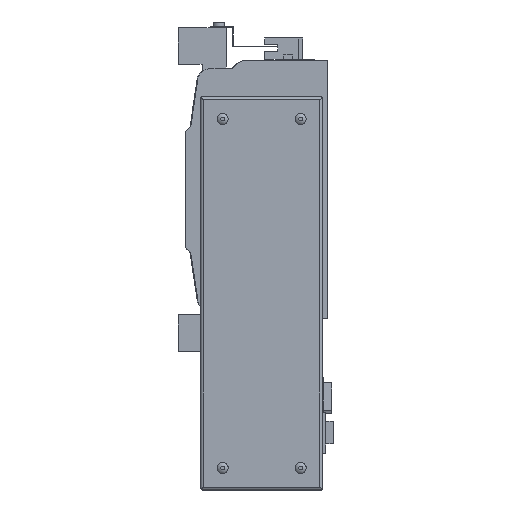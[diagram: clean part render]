
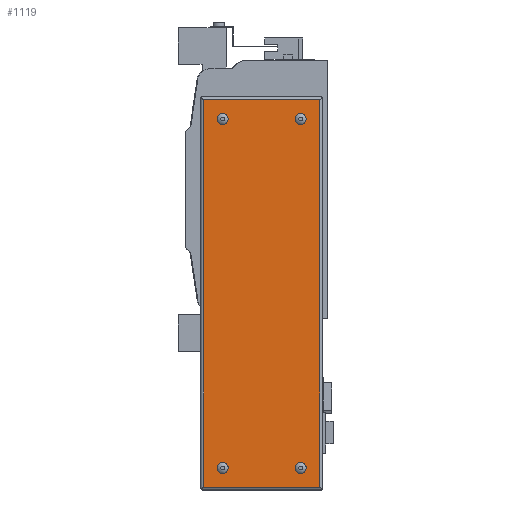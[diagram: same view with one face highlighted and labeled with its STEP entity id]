
A CAD part, left-side view. The second image highlights one B-rep face of the part: STEP entity #1119.
In plain terms, the highlighted planar face has unit normal (-1, 0, 0).
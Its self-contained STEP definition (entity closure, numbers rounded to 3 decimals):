
#1119 = ADVANCED_FACE( '', ( #2554, #2555, #2556, #2557, #2558 ), #2559, .F. );
#2554 = FACE_BOUND( '', #4397, .T. );
#2555 = FACE_BOUND( '', #4398, .T. );
#2556 = FACE_BOUND( '', #4399, .T. );
#2557 = FACE_BOUND( '', #4400, .T. );
#2558 = FACE_OUTER_BOUND( '', #4401, .T. );
#2559 = PLANE( '', #4402 );
#4397 = EDGE_LOOP( '', ( #7292 ) );
#4398 = EDGE_LOOP( '', ( #7293 ) );
#4399 = EDGE_LOOP( '', ( #7294 ) );
#4400 = EDGE_LOOP( '', ( #7295 ) );
#4401 = EDGE_LOOP( '', ( #7296, #7297, #7298, #7299 ) );
#4402 = AXIS2_PLACEMENT_3D( '', #7300, #7301, #7302 );
#7292 = ORIENTED_EDGE( '', *, *, #11269, .F. );
#7293 = ORIENTED_EDGE( '', *, *, #11205, .F. );
#7294 = ORIENTED_EDGE( '', *, *, #11525, .F. );
#7295 = ORIENTED_EDGE( '', *, *, #11526, .F. );
#7296 = ORIENTED_EDGE( '', *, *, #11527, .F. );
#7297 = ORIENTED_EDGE( '', *, *, #10969, .F. );
#7298 = ORIENTED_EDGE( '', *, *, #11528, .T. );
#7299 = ORIENTED_EDGE( '', *, *, #11356, .T. );
#7300 = CARTESIAN_POINT( '', ( -66., 0., 0. ) );
#7301 = DIRECTION( '', ( 1., 0., 0. ) );
#7302 = DIRECTION( '', ( 0., 0., -1. ) );
#10969 = EDGE_CURVE( '', #13212, #13215, #13216, .T. );
#11205 = EDGE_CURVE( '', #13603, #13603, #13604, .F. );
#11269 = EDGE_CURVE( '', #13704, #13704, #13705, .F. );
#11356 = EDGE_CURVE( '', #13847, #13845, #13848, .T. );
#11525 = EDGE_CURVE( '', #14112, #14112, #14113, .F. );
#11526 = EDGE_CURVE( '', #14114, #14114, #14115, .F. );
#11527 = EDGE_CURVE( '', #13215, #13845, #14116, .T. );
#11528 = EDGE_CURVE( '', #13212, #13847, #14117, .T. );
#13212 = VERTEX_POINT( '', #16355 );
#13215 = VERTEX_POINT( '', #16358 );
#13216 = LINE( '', #16359, #16360 );
#13603 = VERTEX_POINT( '', #16891 );
#13604 = CIRCLE( '', #16892, 3.7 );
#13704 = VERTEX_POINT( '', #17021 );
#13705 = CIRCLE( '', #17022, 3.7 );
#13845 = VERTEX_POINT( '', #17217 );
#13847 = VERTEX_POINT( '', #17219 );
#13848 = LINE( '', #17220, #17221 );
#14112 = VERTEX_POINT( '', #17595 );
#14113 = CIRCLE( '', #17596, 3.7 );
#14114 = VERTEX_POINT( '', #17597 );
#14115 = CIRCLE( '', #17598, 3.7 );
#14116 = LINE( '', #17599, #17600 );
#14117 = LINE( '', #17601, #17602 );
#16355 = CARTESIAN_POINT( '', ( -66., 84.5, 61. ) );
#16358 = CARTESIAN_POINT( '', ( -66., 5.5, 61. ) );
#16359 = CARTESIAN_POINT( '', ( -66., 267., 61. ) );
#16360 = VECTOR( '', #19814, 1000. );
#16891 = CARTESIAN_POINT( '', ( -66., 18.5, 44.3 ) );
#16892 = AXIS2_PLACEMENT_3D( '', #20073, #20074, #20075 );
#17021 = CARTESIAN_POINT( '', ( -66., 71.5, -192.7 ) );
#17022 = AXIS2_PLACEMENT_3D( '', #20153, #20154, #20155 );
#17217 = CARTESIAN_POINT( '', ( -66., 5.5, -202. ) );
#17219 = CARTESIAN_POINT( '', ( -66., 84.5, -202. ) );
#17220 = CARTESIAN_POINT( '', ( -66., 267., -202. ) );
#17221 = VECTOR( '', #20250, 1000. );
#17595 = CARTESIAN_POINT( '', ( -66., 18.5, -192.7 ) );
#17596 = AXIS2_PLACEMENT_3D( '', #20451, #20452, #20453 );
#17597 = CARTESIAN_POINT( '', ( -66., 71.5, 44.3 ) );
#17598 = AXIS2_PLACEMENT_3D( '', #20454, #20455, #20456 );
#17599 = CARTESIAN_POINT( '', ( -66., 5.5, 267. ) );
#17600 = VECTOR( '', #20457, 1000. );
#17601 = CARTESIAN_POINT( '', ( -66., 84.5, 267. ) );
#17602 = VECTOR( '', #20458, 1000. );
#19814 = DIRECTION( '', ( 0., -1., 0. ) );
#20073 = CARTESIAN_POINT( '', ( -66., 18.5, 48. ) );
#20074 = DIRECTION( '', ( 1., 0., 0. ) );
#20075 = DIRECTION( '', ( 0., 0., -1. ) );
#20153 = CARTESIAN_POINT( '', ( -66., 71.5, -189. ) );
#20154 = DIRECTION( '', ( 1., 0., 0. ) );
#20155 = DIRECTION( '', ( 0., 0., -1. ) );
#20250 = DIRECTION( '', ( 0., -1., 0. ) );
#20451 = CARTESIAN_POINT( '', ( -66., 18.5, -189. ) );
#20452 = DIRECTION( '', ( 1., 0., 0. ) );
#20453 = DIRECTION( '', ( 0., 0., -1. ) );
#20454 = CARTESIAN_POINT( '', ( -66., 71.5, 48. ) );
#20455 = DIRECTION( '', ( 1., 0., 0. ) );
#20456 = DIRECTION( '', ( 0., 0., -1. ) );
#20457 = DIRECTION( '', ( 0., 0., -1. ) );
#20458 = DIRECTION( '', ( 0., 0., -1. ) );
